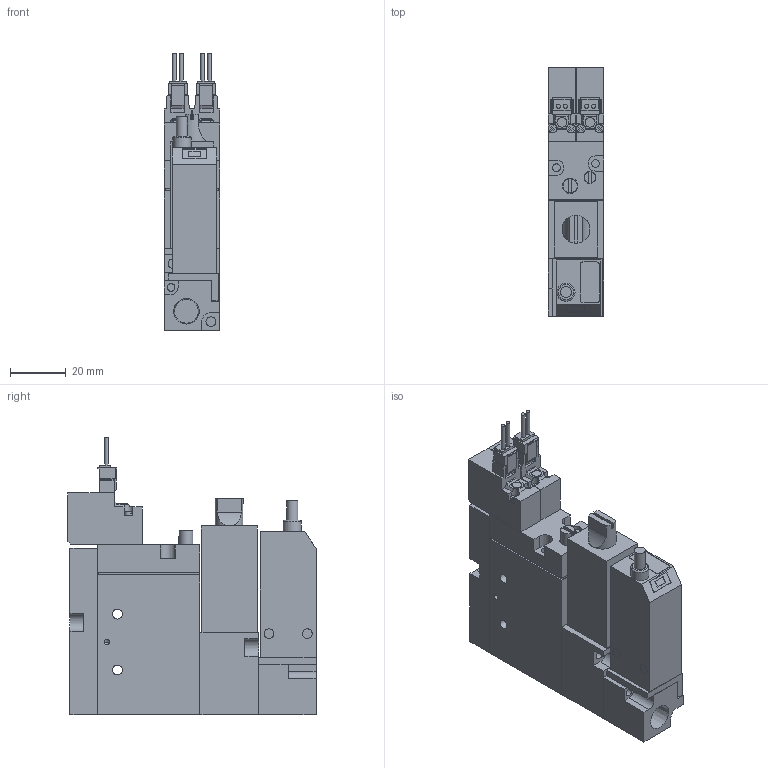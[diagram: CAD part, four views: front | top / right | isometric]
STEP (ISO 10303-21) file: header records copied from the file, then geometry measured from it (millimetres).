
FILE_DESCRIPTION(('STEP AP203'),'1');
FILE_NAME('BMPV32S2NAB25BL.stp','2025-06-17T01:51:29',(' '),(' '),'Spatial InterOp 3D',' ',' ');
FILE_SCHEMA(('CONFIG_CONTROL_DESIGN'));
Length unit declared in the file: millimetre
Products named in the file (14): BMPV32S2NAB25BL; __ ___ (Rc); Filter Assy; __; _____; Pressure sensor ABSL; ___-2(Rc); ___ ___2; ___; upper plate-A; ______; ____; VACUUM VALVE FUNCTION MPV42-A
Assembly tree (13 placements, depth 2):
  BMPV32S2NAB25BL
    __ ___ (Rc)
    Filter Assy
    __
    _____
    Pressure sensor ABSL
    ___-2(Rc)
    ___ ___2
    ___
    upper plate-A
    ______
    ____
    VACUUM VALVE FUNCTION MPV42-A
    VACUUM VALVE FUNCTION MPV42-A
Bounding box: 20 x 88.7 x 99.25 mm (x, y, z)
Volume: 108490.1 mm3; surface area: 36972.7 mm2
Topology: 13 solids, 13 shells, 377 faces, 980 edges, 652 vertices
Faces by surface type: plane 305, cylinder 63, cone 8, torus 1
Full cylindrical faces by diameter (mm): 1.4 x4, 1.8 x2, 2 x2, 2.5 x2, 2.8 x4, 3 x4, 3.5 x12, 4 x2, 4.2 x1, 5 x1, 5.5 x1, 6.5 x2, 8.522 x1
Entity records: 11902 total; most frequent: CARTESIAN_POINT 2020, DIRECTION 1860, ORIENTED_EDGE 1830, EDGE_CURVE 915, LINE 744, VECTOR 744, VERTEX_POINT 640, AXIS2_PLACEMENT_3D 558
